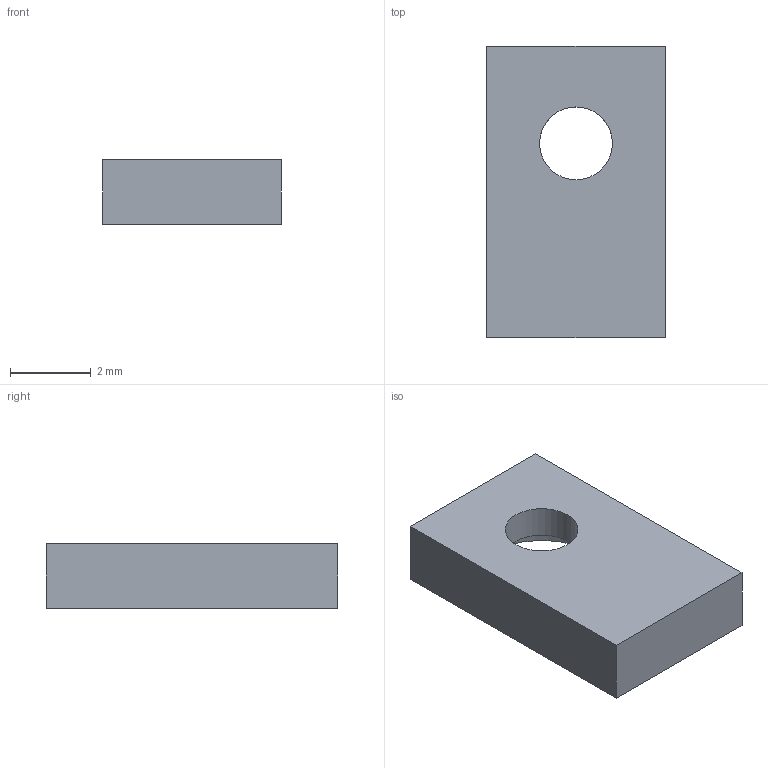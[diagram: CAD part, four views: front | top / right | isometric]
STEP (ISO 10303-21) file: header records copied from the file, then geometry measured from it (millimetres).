
FILE_DESCRIPTION(('Open CASCADE Model'),'2;1');
FILE_NAME('Open CASCADE Shape Model','2026-09-06T11:45:45',('Author'),( 'Open CASCADE'),'Open CASCADE STEP processor 7.7','Open CASCADE 7.7' ,'Unknown');
FILE_SCHEMA(('AUTOMOTIVE_DESIGN { 1 0 10303 214 1 1 1 1 }'));
Length unit declared in the file: millimetre
Products named in the file (1): Open CASCADE STEP translator 7.7 12
Bounding box: 4.4 x 7.2 x 1.6 mm (x, y, z)
Volume: 40.5 mm3; surface area: 109 mm2
Topology: 1 solids, 1 shells, 9 faces, 18 edges, 12 vertices
Faces by surface type: plane 7, cylinder 2
Full cylindrical faces by diameter (mm): 1.8 x1, 3.6 x1
Entity records: 493 total; most frequent: CARTESIAN_POINT 94, DIRECTION 75, LINE 46, VECTOR 46, ORIENTED_EDGE 36, PCURVE 36, DEFINITIONAL_REPRESENTATION 36, EDGE_CURVE 18
